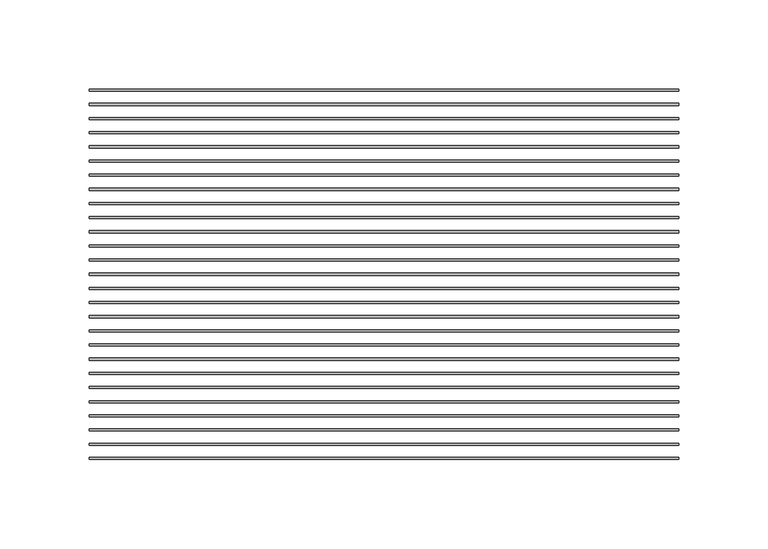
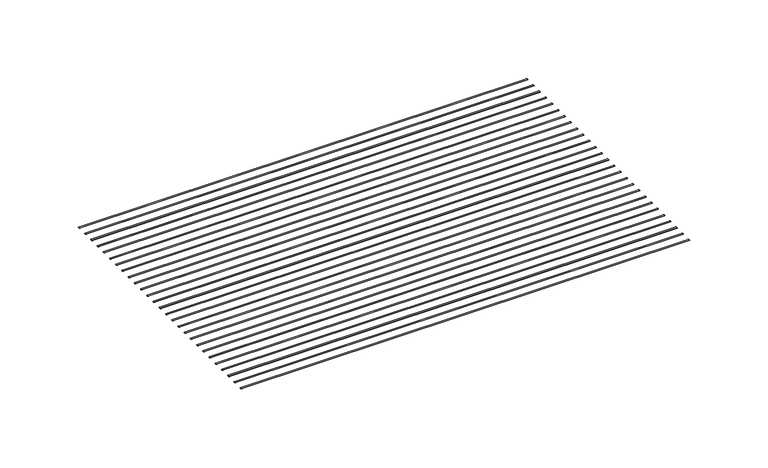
"""IFC4 building model written with IfcOpenShell, lengths in millimetres: proxy geometry, CRAi Generic Model Mesh Piece Face Based : CRAi Generic Model Mesh Piece Face Based."""

from ifc_helpers import new_model, si_unit, point, frame, origin, place, context, project, spatial, ellipse_curve, trimmed, source, transform, mapped, element, save
from ifc_brep_helpers import plane_surface, extruded_surface, advanced_brep


def generic_models_f109a2ff(model_context):
    return source(origin(), model_context, "Body", "AdvancedBrep", [
        advanced_brep(
        [(-165.1, 80.7640625, -2.9765625), (-165.1, 79.5734375, -2.9765625), (165.1, 80.7640625, -2.9765625), (165.1, 79.5734375, -2.9765625)],
        [
            (0, 1, ellipse_curve(frame((-165.1, 80.16875, -2.9765625), z_axis=(-1.0, 0.0, 0.0), x_axis=(0.0, -1.0, 0.0)), 0.5953125, 0.1984375)),
            (1, 0, ellipse_curve(frame((-165.1, 80.16875, -2.9765625), z_axis=(-1.0, 0.0, 0.0), x_axis=(0.0, -1.0, 0.0)), 0.5953125, 0.1984375)),
            (2, 3, ellipse_curve(frame((165.1, 80.16875, -2.9765625), z_axis=(1.0, 0.0, 0.0), x_axis=(0.0, -1.0, 0.0)), 0.5953125, 0.1984375)),
            (3, 2, ellipse_curve(frame((165.1, 80.16875, -2.9765625), z_axis=(1.0, 0.0, 0.0), x_axis=(0.0, -1.0, 0.0)), 0.5953125, 0.1984375)),
            (0, 2),
            (3, 1),
        ],
        [
            plane_surface(frame((-165.1, 80.16875, -2.9765625), z_axis=(-1.0, 0.0, 0.0), x_axis=(0.0, 0.0, 1.0))),
            plane_surface(frame((165.1, 80.16875, -2.9765625), z_axis=(1.0, 0.0, 0.0), x_axis=(0.0, 0.0, 1.0))),
            extruded_surface(trimmed(ellipse_curve(frame((165.1, 80.16875, -2.9765625), z_axis=(-1.0, 0.0, 0.0), x_axis=(0.0, -1.0, 0.0)), 0.5953125, 0.1984375), [point((165.1, 80.7640625, -2.9765625))], [point((165.1, 79.5734375, -2.9765625))], True, "CARTESIAN"), (-330.2, 0.0, 0.0), 330.2),
            extruded_surface(trimmed(ellipse_curve(frame((165.1, 80.16875, -2.9765625), z_axis=(-1.0, 0.0, 0.0), x_axis=(0.0, -1.0, 0.0)), 0.5953125, 0.1984375), [point((165.1, 79.5734375, -2.9765625))], [point((165.1, 80.7640625, -2.9765625))], True, "CARTESIAN"), (-330.2, 0.0, 0.0), 330.2),
        ],
        [
            (0, [[1, 2]]),
            (1, [[3, 4]]),
            (2, [[-1, 5, -4, 6]]),
            (3, [[-2, -6, -3, -5]]),
        ],
    ),
        advanced_brep(
        [(-165.1, 72.8265625, -2.9765625), (-165.1, 71.6359375, -2.9765625), (165.1, 72.8265625, -2.9765625), (165.1, 71.6359375, -2.9765625)],
        [
            (0, 1, ellipse_curve(frame((-165.1, 72.23125, -2.9765625), z_axis=(-1.0, 0.0, 0.0), x_axis=(0.0, -1.0, 0.0)), 0.5953125, 0.1984375)),
            (1, 0, ellipse_curve(frame((-165.1, 72.23125, -2.9765625), z_axis=(-1.0, 0.0, 0.0), x_axis=(0.0, -1.0, 0.0)), 0.5953125, 0.1984375)),
            (2, 3, ellipse_curve(frame((165.1, 72.23125, -2.9765625), z_axis=(1.0, 0.0, 0.0), x_axis=(0.0, -1.0, 0.0)), 0.5953125, 0.1984375)),
            (3, 2, ellipse_curve(frame((165.1, 72.23125, -2.9765625), z_axis=(1.0, 0.0, 0.0), x_axis=(0.0, -1.0, 0.0)), 0.5953125, 0.1984375)),
            (0, 2),
            (3, 1),
        ],
        [
            plane_surface(frame((-165.1, 72.23125, -2.9765625), z_axis=(-1.0, 0.0, 0.0), x_axis=(0.0, 0.0, 1.0))),
            plane_surface(frame((165.1, 72.23125, -2.9765625), z_axis=(1.0, 0.0, 0.0), x_axis=(0.0, 0.0, 1.0))),
            extruded_surface(trimmed(ellipse_curve(frame((165.1, 72.23125, -2.9765625), z_axis=(-1.0, 0.0, 0.0), x_axis=(0.0, -1.0, 0.0)), 0.5953125, 0.1984375), [point((165.1, 72.8265625, -2.9765625))], [point((165.1, 71.6359375, -2.9765625))], True, "CARTESIAN"), (-330.2, 0.0, 0.0), 330.2),
            extruded_surface(trimmed(ellipse_curve(frame((165.1, 72.23125, -2.9765625), z_axis=(-1.0, 0.0, 0.0), x_axis=(0.0, -1.0, 0.0)), 0.5953125, 0.1984375), [point((165.1, 71.6359375, -2.9765625))], [point((165.1, 72.8265625, -2.9765625))], True, "CARTESIAN"), (-330.2, 0.0, 0.0), 330.2),
        ],
        [
            (0, [[1, 2]]),
            (1, [[3, 4]]),
            (2, [[-1, 5, -4, 6]]),
            (3, [[-2, -6, -3, -5]]),
        ],
    ),
        advanced_brep(
        [(-165.1, 64.8890625, -2.9765625), (-165.1, 63.6984375, -2.9765625), (165.1, 64.8890625, -2.9765625), (165.1, 63.6984375, -2.9765625)],
        [
            (0, 1, ellipse_curve(frame((-165.1, 64.29375, -2.9765625), z_axis=(-1.0, 0.0, 0.0), x_axis=(0.0, -1.0, 0.0)), 0.5953125, 0.1984375)),
            (1, 0, ellipse_curve(frame((-165.1, 64.29375, -2.9765625), z_axis=(-1.0, 0.0, 0.0), x_axis=(0.0, -1.0, 0.0)), 0.5953125, 0.1984375)),
            (2, 3, ellipse_curve(frame((165.1, 64.29375, -2.9765625), z_axis=(1.0, 0.0, 0.0), x_axis=(0.0, -1.0, 0.0)), 0.5953125, 0.1984375)),
            (3, 2, ellipse_curve(frame((165.1, 64.29375, -2.9765625), z_axis=(1.0, 0.0, 0.0), x_axis=(0.0, -1.0, 0.0)), 0.5953125, 0.1984375)),
            (0, 2),
            (3, 1),
        ],
        [
            plane_surface(frame((-165.1, 64.29375, -2.9765625), z_axis=(-1.0, 0.0, 0.0), x_axis=(0.0, 0.0, 1.0))),
            plane_surface(frame((165.1, 64.29375, -2.9765625), z_axis=(1.0, 0.0, 0.0), x_axis=(0.0, 0.0, 1.0))),
            extruded_surface(trimmed(ellipse_curve(frame((165.1, 64.29375, -2.9765625), z_axis=(-1.0, 0.0, 0.0), x_axis=(0.0, -1.0, 0.0)), 0.5953125, 0.1984375), [point((165.1, 64.8890625, -2.9765625))], [point((165.1, 63.6984375, -2.9765625))], True, "CARTESIAN"), (-330.2, 0.0, 0.0), 330.2),
            extruded_surface(trimmed(ellipse_curve(frame((165.1, 64.29375, -2.9765625), z_axis=(-1.0, 0.0, 0.0), x_axis=(0.0, -1.0, 0.0)), 0.5953125, 0.1984375), [point((165.1, 63.6984375, -2.9765625))], [point((165.1, 64.8890625, -2.9765625))], True, "CARTESIAN"), (-330.2, 0.0, 0.0), 330.2),
        ],
        [
            (0, [[1, 2]]),
            (1, [[3, 4]]),
            (2, [[-1, 5, -4, 6]]),
            (3, [[-2, -6, -3, -5]]),
        ],
    ),
        advanced_brep(
        [(-165.1, 56.9515625, -2.9765625), (-165.1, 55.7609375, -2.9765625), (165.1, 56.9515625, -2.9765625), (165.1, 55.7609375, -2.9765625)],
        [
            (0, 1, ellipse_curve(frame((-165.1, 56.35625, -2.9765625), z_axis=(-1.0, 0.0, 0.0), x_axis=(0.0, -1.0, 0.0)), 0.5953125, 0.1984375)),
            (1, 0, ellipse_curve(frame((-165.1, 56.35625, -2.9765625), z_axis=(-1.0, 0.0, 0.0), x_axis=(0.0, -1.0, 0.0)), 0.5953125, 0.1984375)),
            (2, 3, ellipse_curve(frame((165.1, 56.35625, -2.9765625), z_axis=(1.0, 0.0, 0.0), x_axis=(0.0, -1.0, 0.0)), 0.5953125, 0.1984375)),
            (3, 2, ellipse_curve(frame((165.1, 56.35625, -2.9765625), z_axis=(1.0, 0.0, 0.0), x_axis=(0.0, -1.0, 0.0)), 0.5953125, 0.1984375)),
            (0, 2),
            (3, 1),
        ],
        [
            plane_surface(frame((-165.1, 56.35625, -2.9765625), z_axis=(-1.0, 0.0, 0.0), x_axis=(0.0, 0.0, 1.0))),
            plane_surface(frame((165.1, 56.35625, -2.9765625), z_axis=(1.0, 0.0, 0.0), x_axis=(0.0, 0.0, 1.0))),
            extruded_surface(trimmed(ellipse_curve(frame((165.1, 56.35625, -2.9765625), z_axis=(-1.0, 0.0, 0.0), x_axis=(0.0, -1.0, 0.0)), 0.5953125, 0.1984375), [point((165.1, 56.9515625, -2.9765625))], [point((165.1, 55.7609375, -2.9765625))], True, "CARTESIAN"), (-330.2, 0.0, 0.0), 330.2),
            extruded_surface(trimmed(ellipse_curve(frame((165.1, 56.35625, -2.9765625), z_axis=(-1.0, 0.0, 0.0), x_axis=(0.0, -1.0, 0.0)), 0.5953125, 0.1984375), [point((165.1, 55.7609375, -2.9765625))], [point((165.1, 56.9515625, -2.9765625))], True, "CARTESIAN"), (-330.2, 0.0, 0.0), 330.2),
        ],
        [
            (0, [[1, 2]]),
            (1, [[3, 4]]),
            (2, [[-1, 5, -4, 6]]),
            (3, [[-2, -6, -3, -5]]),
        ],
    ),
        advanced_brep(
        [(-165.1, 49.0140625, -2.9765625), (-165.1, 47.8234375, -2.9765625), (165.1, 49.0140625, -2.9765625), (165.1, 47.8234375, -2.9765625)],
        [
            (0, 1, ellipse_curve(frame((-165.1, 48.41875, -2.9765625), z_axis=(-1.0, 0.0, 0.0), x_axis=(0.0, -1.0, 0.0)), 0.5953125, 0.1984375)),
            (1, 0, ellipse_curve(frame((-165.1, 48.41875, -2.9765625), z_axis=(-1.0, 0.0, 0.0), x_axis=(0.0, -1.0, 0.0)), 0.5953125, 0.1984375)),
            (2, 3, ellipse_curve(frame((165.1, 48.41875, -2.9765625), z_axis=(1.0, 0.0, 0.0), x_axis=(0.0, -1.0, 0.0)), 0.5953125, 0.1984375)),
            (3, 2, ellipse_curve(frame((165.1, 48.41875, -2.9765625), z_axis=(1.0, 0.0, 0.0), x_axis=(0.0, -1.0, 0.0)), 0.5953125, 0.1984375)),
            (0, 2),
            (3, 1),
        ],
        [
            plane_surface(frame((-165.1, 48.41875, -2.9765625), z_axis=(-1.0, 0.0, 0.0), x_axis=(0.0, 0.0, 1.0))),
            plane_surface(frame((165.1, 48.41875, -2.9765625), z_axis=(1.0, 0.0, 0.0), x_axis=(0.0, 0.0, 1.0))),
            extruded_surface(trimmed(ellipse_curve(frame((165.1, 48.41875, -2.9765625), z_axis=(-1.0, 0.0, 0.0), x_axis=(0.0, -1.0, 0.0)), 0.5953125, 0.1984375), [point((165.1, 49.0140625, -2.9765625))], [point((165.1, 47.8234375, -2.9765625))], True, "CARTESIAN"), (-330.2, 0.0, 0.0), 330.2),
            extruded_surface(trimmed(ellipse_curve(frame((165.1, 48.41875, -2.9765625), z_axis=(-1.0, 0.0, 0.0), x_axis=(0.0, -1.0, 0.0)), 0.5953125, 0.1984375), [point((165.1, 47.8234375, -2.9765625))], [point((165.1, 49.0140625, -2.9765625))], True, "CARTESIAN"), (-330.2, 0.0, 0.0), 330.2),
        ],
        [
            (0, [[1, 2]]),
            (1, [[3, 4]]),
            (2, [[-1, 5, -4, 6]]),
            (3, [[-2, -6, -3, -5]]),
        ],
    ),
        advanced_brep(
        [(-165.1, 41.0765625, -2.9765625), (-165.1, 39.8859375, -2.9765625), (165.1, 41.0765625, -2.9765625), (165.1, 39.8859375, -2.9765625)],
        [
            (0, 1, ellipse_curve(frame((-165.1, 40.48125, -2.9765625), z_axis=(-1.0, 0.0, 0.0), x_axis=(0.0, -1.0, 0.0)), 0.5953125, 0.1984375)),
            (1, 0, ellipse_curve(frame((-165.1, 40.48125, -2.9765625), z_axis=(-1.0, 0.0, 0.0), x_axis=(0.0, -1.0, 0.0)), 0.5953125, 0.1984375)),
            (2, 3, ellipse_curve(frame((165.1, 40.48125, -2.9765625), z_axis=(1.0, 0.0, 0.0), x_axis=(0.0, -1.0, 0.0)), 0.5953125, 0.1984375)),
            (3, 2, ellipse_curve(frame((165.1, 40.48125, -2.9765625), z_axis=(1.0, 0.0, 0.0), x_axis=(0.0, -1.0, 0.0)), 0.5953125, 0.1984375)),
            (0, 2),
            (3, 1),
        ],
        [
            plane_surface(frame((-165.1, 40.48125, -2.9765625), z_axis=(-1.0, 0.0, 0.0), x_axis=(0.0, 0.0, 1.0))),
            plane_surface(frame((165.1, 40.48125, -2.9765625), z_axis=(1.0, 0.0, 0.0), x_axis=(0.0, 0.0, 1.0))),
            extruded_surface(trimmed(ellipse_curve(frame((165.1, 40.48125, -2.9765625), z_axis=(-1.0, 0.0, 0.0), x_axis=(0.0, -1.0, 0.0)), 0.5953125, 0.1984375), [point((165.1, 41.0765625, -2.9765625))], [point((165.1, 39.8859375, -2.9765625))], True, "CARTESIAN"), (-330.2, 0.0, 0.0), 330.2),
            extruded_surface(trimmed(ellipse_curve(frame((165.1, 40.48125, -2.9765625), z_axis=(-1.0, 0.0, 0.0), x_axis=(0.0, -1.0, 0.0)), 0.5953125, 0.1984375), [point((165.1, 39.8859375, -2.9765625))], [point((165.1, 41.0765625, -2.9765625))], True, "CARTESIAN"), (-330.2, 0.0, 0.0), 330.2),
        ],
        [
            (0, [[1, 2]]),
            (1, [[3, 4]]),
            (2, [[-1, 5, -4, 6]]),
            (3, [[-2, -6, -3, -5]]),
        ],
    ),
        advanced_brep(
        [(-165.1, 33.1390625, -2.9765625), (-165.1, 31.9484375, -2.9765625), (165.1, 33.1390625, -2.9765625), (165.1, 31.9484375, -2.9765625)],
        [
            (0, 1, ellipse_curve(frame((-165.1, 32.54375, -2.9765625), z_axis=(-1.0, 0.0, 0.0), x_axis=(0.0, -1.0, 0.0)), 0.5953125, 0.1984375)),
            (1, 0, ellipse_curve(frame((-165.1, 32.54375, -2.9765625), z_axis=(-1.0, 0.0, 0.0), x_axis=(0.0, -1.0, 0.0)), 0.5953125, 0.1984375)),
            (2, 3, ellipse_curve(frame((165.1, 32.54375, -2.9765625), z_axis=(1.0, 0.0, 0.0), x_axis=(0.0, -1.0, 0.0)), 0.5953125, 0.1984375)),
            (3, 2, ellipse_curve(frame((165.1, 32.54375, -2.9765625), z_axis=(1.0, 0.0, 0.0), x_axis=(0.0, -1.0, 0.0)), 0.5953125, 0.1984375)),
            (0, 2),
            (3, 1),
        ],
        [
            plane_surface(frame((-165.1, 32.54375, -2.9765625), z_axis=(-1.0, 0.0, 0.0), x_axis=(0.0, 0.0, 1.0))),
            plane_surface(frame((165.1, 32.54375, -2.9765625), z_axis=(1.0, 0.0, 0.0), x_axis=(0.0, 0.0, 1.0))),
            extruded_surface(trimmed(ellipse_curve(frame((165.1, 32.54375, -2.9765625), z_axis=(-1.0, 0.0, 0.0), x_axis=(0.0, -1.0, 0.0)), 0.5953125, 0.1984375), [point((165.1, 33.1390625, -2.9765625))], [point((165.1, 31.9484375, -2.9765625))], True, "CARTESIAN"), (-330.2, 0.0, 0.0), 330.2),
            extruded_surface(trimmed(ellipse_curve(frame((165.1, 32.54375, -2.9765625), z_axis=(-1.0, 0.0, 0.0), x_axis=(0.0, -1.0, 0.0)), 0.5953125, 0.1984375), [point((165.1, 31.9484375, -2.9765625))], [point((165.1, 33.1390625, -2.9765625))], True, "CARTESIAN"), (-330.2, 0.0, 0.0), 330.2),
        ],
        [
            (0, [[1, 2]]),
            (1, [[3, 4]]),
            (2, [[-1, 5, -4, 6]]),
            (3, [[-2, -6, -3, -5]]),
        ],
    ),
        advanced_brep(
        [(-165.1, 25.2015625, -2.9765625), (-165.1, 24.0109375, -2.9765625), (165.1, 25.2015625, -2.9765625), (165.1, 24.0109375, -2.9765625)],
        [
            (0, 1, ellipse_curve(frame((-165.1, 24.60625, -2.9765625), z_axis=(-1.0, 0.0, 0.0), x_axis=(0.0, -1.0, 0.0)), 0.5953125, 0.1984375)),
            (1, 0, ellipse_curve(frame((-165.1, 24.60625, -2.9765625), z_axis=(-1.0, 0.0, 0.0), x_axis=(0.0, -1.0, 0.0)), 0.5953125, 0.1984375)),
            (2, 3, ellipse_curve(frame((165.1, 24.60625, -2.9765625), z_axis=(1.0, 0.0, 0.0), x_axis=(0.0, -1.0, 0.0)), 0.5953125, 0.1984375)),
            (3, 2, ellipse_curve(frame((165.1, 24.60625, -2.9765625), z_axis=(1.0, 0.0, 0.0), x_axis=(0.0, -1.0, 0.0)), 0.5953125, 0.1984375)),
            (0, 2),
            (3, 1),
        ],
        [
            plane_surface(frame((-165.1, 24.60625, -2.9765625), z_axis=(-1.0, 0.0, 0.0), x_axis=(0.0, 0.0, 1.0))),
            plane_surface(frame((165.1, 24.60625, -2.9765625), z_axis=(1.0, 0.0, 0.0), x_axis=(0.0, 0.0, 1.0))),
            extruded_surface(trimmed(ellipse_curve(frame((165.1, 24.60625, -2.9765625), z_axis=(-1.0, 0.0, 0.0), x_axis=(0.0, -1.0, 0.0)), 0.5953125, 0.1984375), [point((165.1, 25.2015625, -2.9765625))], [point((165.1, 24.0109375, -2.9765625))], True, "CARTESIAN"), (-330.2, 0.0, 0.0), 330.2),
            extruded_surface(trimmed(ellipse_curve(frame((165.1, 24.60625, -2.9765625), z_axis=(-1.0, 0.0, 0.0), x_axis=(0.0, -1.0, 0.0)), 0.5953125, 0.1984375), [point((165.1, 24.0109375, -2.9765625))], [point((165.1, 25.2015625, -2.9765625))], True, "CARTESIAN"), (-330.2, 0.0, 0.0), 330.2),
        ],
        [
            (0, [[1, 2]]),
            (1, [[3, 4]]),
            (2, [[-1, 5, -4, 6]]),
            (3, [[-2, -6, -3, -5]]),
        ],
    ),
        advanced_brep(
        [(-165.1, 17.2640625, -2.9765625), (-165.1, 16.0734375, -2.9765625), (165.1, 17.2640625, -2.9765625), (165.1, 16.0734375, -2.9765625)],
        [
            (0, 1, ellipse_curve(frame((-165.1, 16.66875, -2.9765625), z_axis=(-1.0, 0.0, 0.0), x_axis=(0.0, -1.0, 0.0)), 0.5953125, 0.1984375)),
            (1, 0, ellipse_curve(frame((-165.1, 16.66875, -2.9765625), z_axis=(-1.0, 0.0, 0.0), x_axis=(0.0, -1.0, 0.0)), 0.5953125, 0.1984375)),
            (2, 3, ellipse_curve(frame((165.1, 16.66875, -2.9765625), z_axis=(1.0, 0.0, 0.0), x_axis=(0.0, -1.0, 0.0)), 0.5953125, 0.1984375)),
            (3, 2, ellipse_curve(frame((165.1, 16.66875, -2.9765625), z_axis=(1.0, 0.0, 0.0), x_axis=(0.0, -1.0, 0.0)), 0.5953125, 0.1984375)),
            (0, 2),
            (3, 1),
        ],
        [
            plane_surface(frame((-165.1, 16.66875, -2.9765625), z_axis=(-1.0, 0.0, 0.0), x_axis=(0.0, 0.0, 1.0))),
            plane_surface(frame((165.1, 16.66875, -2.9765625), z_axis=(1.0, 0.0, 0.0), x_axis=(0.0, 0.0, 1.0))),
            extruded_surface(trimmed(ellipse_curve(frame((165.1, 16.66875, -2.9765625), z_axis=(-1.0, 0.0, 0.0), x_axis=(0.0, -1.0, 0.0)), 0.5953125, 0.1984375), [point((165.1, 17.2640625, -2.9765625))], [point((165.1, 16.0734375, -2.9765625))], True, "CARTESIAN"), (-330.2, 0.0, 0.0), 330.2),
            extruded_surface(trimmed(ellipse_curve(frame((165.1, 16.66875, -2.9765625), z_axis=(-1.0, 0.0, 0.0), x_axis=(0.0, -1.0, 0.0)), 0.5953125, 0.1984375), [point((165.1, 16.0734375, -2.9765625))], [point((165.1, 17.2640625, -2.9765625))], True, "CARTESIAN"), (-330.2, 0.0, 0.0), 330.2),
        ],
        [
            (0, [[1, 2]]),
            (1, [[3, 4]]),
            (2, [[-1, 5, -4, 6]]),
            (3, [[-2, -6, -3, -5]]),
        ],
    ),
        advanced_brep(
        [(-165.1, 9.3265625, -2.9765625), (-165.1, 8.1359375, -2.9765625), (165.1, 9.3265625, -2.9765625), (165.1, 8.1359375, -2.9765625)],
        [
            (0, 1, ellipse_curve(frame((-165.1, 8.73125, -2.9765625), z_axis=(-1.0, 0.0, 0.0), x_axis=(0.0, -1.0, 0.0)), 0.5953125, 0.1984375)),
            (1, 0, ellipse_curve(frame((-165.1, 8.73125, -2.9765625), z_axis=(-1.0, 0.0, 0.0), x_axis=(0.0, -1.0, 0.0)), 0.5953125, 0.1984375)),
            (2, 3, ellipse_curve(frame((165.1, 8.73125, -2.9765625), z_axis=(1.0, 0.0, 0.0), x_axis=(0.0, -1.0, 0.0)), 0.5953125, 0.1984375)),
            (3, 2, ellipse_curve(frame((165.1, 8.73125, -2.9765625), z_axis=(1.0, 0.0, 0.0), x_axis=(0.0, -1.0, 0.0)), 0.5953125, 0.1984375)),
            (0, 2),
            (3, 1),
        ],
        [
            plane_surface(frame((-165.1, 8.73125, -2.9765625), z_axis=(-1.0, 0.0, 0.0), x_axis=(0.0, 0.0, 1.0))),
            plane_surface(frame((165.1, 8.73125, -2.9765625), z_axis=(1.0, 0.0, 0.0), x_axis=(0.0, 0.0, 1.0))),
            extruded_surface(trimmed(ellipse_curve(frame((165.1, 8.73125, -2.9765625), z_axis=(-1.0, 0.0, 0.0), x_axis=(0.0, -1.0, 0.0)), 0.5953125, 0.1984375), [point((165.1, 9.3265625, -2.9765625))], [point((165.1, 8.1359375, -2.9765625))], True, "CARTESIAN"), (-330.2, 0.0, 0.0), 330.2),
            extruded_surface(trimmed(ellipse_curve(frame((165.1, 8.73125, -2.9765625), z_axis=(-1.0, 0.0, 0.0), x_axis=(0.0, -1.0, 0.0)), 0.5953125, 0.1984375), [point((165.1, 8.1359375, -2.9765625))], [point((165.1, 9.3265625, -2.9765625))], True, "CARTESIAN"), (-330.2, 0.0, 0.0), 330.2),
        ],
        [
            (0, [[1, 2]]),
            (1, [[3, 4]]),
            (2, [[-1, 5, -4, 6]]),
            (3, [[-2, -6, -3, -5]]),
        ],
    ),
        advanced_brep(
        [(-165.1, 1.3890625, -2.9765625), (-165.1, 0.1984375, -2.9765625), (165.1, 1.3890625, -2.9765625), (165.1, 0.1984375, -2.9765625)],
        [
            (0, 1, ellipse_curve(frame((-165.1, 0.79375, -2.9765625), z_axis=(-1.0, 0.0, 0.0), x_axis=(0.0, -1.0, 0.0)), 0.5953125, 0.1984375)),
            (1, 0, ellipse_curve(frame((-165.1, 0.79375, -2.9765625), z_axis=(-1.0, 0.0, 0.0), x_axis=(0.0, -1.0, 0.0)), 0.5953125, 0.1984375)),
            (2, 3, ellipse_curve(frame((165.1, 0.79375, -2.9765625), z_axis=(1.0, 0.0, 0.0), x_axis=(0.0, -1.0, 0.0)), 0.5953125, 0.1984375)),
            (3, 2, ellipse_curve(frame((165.1, 0.79375, -2.9765625), z_axis=(1.0, 0.0, 0.0), x_axis=(0.0, -1.0, 0.0)), 0.5953125, 0.1984375)),
            (0, 2),
            (3, 1),
        ],
        [
            plane_surface(frame((-165.1, 0.79375, -2.9765625), z_axis=(-1.0, 0.0, 0.0), x_axis=(0.0, 0.0, 1.0))),
            plane_surface(frame((165.1, 0.79375, -2.9765625), z_axis=(1.0, 0.0, 0.0), x_axis=(0.0, 0.0, 1.0))),
            extruded_surface(trimmed(ellipse_curve(frame((165.1, 0.79375, -2.9765625), z_axis=(-1.0, 0.0, 0.0), x_axis=(0.0, -1.0, 0.0)), 0.5953125, 0.1984375), [point((165.1, 1.3890625, -2.9765625))], [point((165.1, 0.1984375, -2.9765625))], True, "CARTESIAN"), (-330.2, 0.0, 0.0), 330.2),
            extruded_surface(trimmed(ellipse_curve(frame((165.1, 0.79375, -2.9765625), z_axis=(-1.0, 0.0, 0.0), x_axis=(0.0, -1.0, 0.0)), 0.5953125, 0.1984375), [point((165.1, 0.1984375, -2.9765625))], [point((165.1, 1.3890625, -2.9765625))], True, "CARTESIAN"), (-330.2, 0.0, 0.0), 330.2),
        ],
        [
            (0, [[1, 2]]),
            (1, [[3, 4]]),
            (2, [[-1, 5, -4, 6]]),
            (3, [[-2, -6, -3, -5]]),
        ],
    ),
        advanced_brep(
        [(-165.1, -6.5484375, -2.9765625), (-165.1, -7.7390625, -2.9765625), (165.1, -6.5484375, -2.9765625), (165.1, -7.7390625, -2.9765625)],
        [
            (0, 1, ellipse_curve(frame((-165.1, -7.14375, -2.9765625), z_axis=(-1.0, 0.0, 0.0), x_axis=(0.0, -1.0, 0.0)), 0.5953125, 0.1984375)),
            (1, 0, ellipse_curve(frame((-165.1, -7.14375, -2.9765625), z_axis=(-1.0, 0.0, 0.0), x_axis=(0.0, -1.0, 0.0)), 0.5953125, 0.1984375)),
            (2, 3, ellipse_curve(frame((165.1, -7.14375, -2.9765625), z_axis=(1.0, 0.0, 0.0), x_axis=(0.0, -1.0, 0.0)), 0.5953125, 0.1984375)),
            (3, 2, ellipse_curve(frame((165.1, -7.14375, -2.9765625), z_axis=(1.0, 0.0, 0.0), x_axis=(0.0, -1.0, 0.0)), 0.5953125, 0.1984375)),
            (0, 2),
            (3, 1),
        ],
        [
            plane_surface(frame((-165.1, -7.14375, -2.9765625), z_axis=(-1.0, 0.0, 0.0), x_axis=(0.0, 0.0, 1.0))),
            plane_surface(frame((165.1, -7.14375, -2.9765625), z_axis=(1.0, 0.0, 0.0), x_axis=(0.0, 0.0, 1.0))),
            extruded_surface(trimmed(ellipse_curve(frame((165.1, -7.14375, -2.9765625), z_axis=(-1.0, 0.0, 0.0), x_axis=(0.0, -1.0, 0.0)), 0.5953125, 0.1984375), [point((165.1, -6.5484375, -2.9765625))], [point((165.1, -7.7390625, -2.9765625))], True, "CARTESIAN"), (-330.2, 0.0, 0.0), 330.2),
            extruded_surface(trimmed(ellipse_curve(frame((165.1, -7.14375, -2.9765625), z_axis=(-1.0, 0.0, 0.0), x_axis=(0.0, -1.0, 0.0)), 0.5953125, 0.1984375), [point((165.1, -7.7390625, -2.9765625))], [point((165.1, -6.5484375, -2.9765625))], True, "CARTESIAN"), (-330.2, 0.0, 0.0), 330.2),
        ],
        [
            (0, [[1, 2]]),
            (1, [[3, 4]]),
            (2, [[-1, 5, -4, 6]]),
            (3, [[-2, -6, -3, -5]]),
        ],
    ),
        advanced_brep(
        [(-165.1, -14.4859375, -2.9765625), (-165.1, -15.6765625, -2.9765625), (165.1, -14.4859375, -2.9765625), (165.1, -15.6765625, -2.9765625)],
        [
            (0, 1, ellipse_curve(frame((-165.1, -15.08125, -2.9765625), z_axis=(-1.0, 0.0, 0.0), x_axis=(0.0, -1.0, 0.0)), 0.5953125, 0.1984375)),
            (1, 0, ellipse_curve(frame((-165.1, -15.08125, -2.9765625), z_axis=(-1.0, 0.0, 0.0), x_axis=(0.0, -1.0, 0.0)), 0.5953125, 0.1984375)),
            (2, 3, ellipse_curve(frame((165.1, -15.08125, -2.9765625), z_axis=(1.0, 0.0, 0.0), x_axis=(0.0, -1.0, 0.0)), 0.5953125, 0.1984375)),
            (3, 2, ellipse_curve(frame((165.1, -15.08125, -2.9765625), z_axis=(1.0, 0.0, 0.0), x_axis=(0.0, -1.0, 0.0)), 0.5953125, 0.1984375)),
            (0, 2),
            (3, 1),
        ],
        [
            plane_surface(frame((-165.1, -15.08125, -2.9765625), z_axis=(-1.0, 0.0, 0.0), x_axis=(0.0, 0.0, 1.0))),
            plane_surface(frame((165.1, -15.08125, -2.9765625), z_axis=(1.0, 0.0, 0.0), x_axis=(0.0, 0.0, 1.0))),
            extruded_surface(trimmed(ellipse_curve(frame((165.1, -15.08125, -2.9765625), z_axis=(-1.0, 0.0, 0.0), x_axis=(0.0, -1.0, 0.0)), 0.5953125, 0.1984375), [point((165.1, -14.4859375, -2.9765625))], [point((165.1, -15.6765625, -2.9765625))], True, "CARTESIAN"), (-330.2, 0.0, 0.0), 330.2),
            extruded_surface(trimmed(ellipse_curve(frame((165.1, -15.08125, -2.9765625), z_axis=(-1.0, 0.0, 0.0), x_axis=(0.0, -1.0, 0.0)), 0.5953125, 0.1984375), [point((165.1, -15.6765625, -2.9765625))], [point((165.1, -14.4859375, -2.9765625))], True, "CARTESIAN"), (-330.2, 0.0, 0.0), 330.2),
        ],
        [
            (0, [[1, 2]]),
            (1, [[3, 4]]),
            (2, [[-1, 5, -4, 6]]),
            (3, [[-2, -6, -3, -5]]),
        ],
    ),
        advanced_brep(
        [(-165.1, -22.4234375, -2.9765625), (-165.1, -23.6140625, -2.9765625), (165.1, -22.4234375, -2.9765625), (165.1, -23.6140625, -2.9765625)],
        [
            (0, 1, ellipse_curve(frame((-165.1, -23.01875, -2.9765625), z_axis=(-1.0, 0.0, 0.0), x_axis=(0.0, -1.0, 0.0)), 0.5953125, 0.1984375)),
            (1, 0, ellipse_curve(frame((-165.1, -23.01875, -2.9765625), z_axis=(-1.0, 0.0, 0.0), x_axis=(0.0, -1.0, 0.0)), 0.5953125, 0.1984375)),
            (2, 3, ellipse_curve(frame((165.1, -23.01875, -2.9765625), z_axis=(1.0, 0.0, 0.0), x_axis=(0.0, -1.0, 0.0)), 0.5953125, 0.1984375)),
            (3, 2, ellipse_curve(frame((165.1, -23.01875, -2.9765625), z_axis=(1.0, 0.0, 0.0), x_axis=(0.0, -1.0, 0.0)), 0.5953125, 0.1984375)),
            (0, 2),
            (3, 1),
        ],
        [
            plane_surface(frame((-165.1, -23.01875, -2.9765625), z_axis=(-1.0, 0.0, 0.0), x_axis=(0.0, 0.0, 1.0))),
            plane_surface(frame((165.1, -23.01875, -2.9765625), z_axis=(1.0, 0.0, 0.0), x_axis=(0.0, 0.0, 1.0))),
            extruded_surface(trimmed(ellipse_curve(frame((165.1, -23.01875, -2.9765625), z_axis=(-1.0, 0.0, 0.0), x_axis=(0.0, -1.0, 0.0)), 0.5953125, 0.1984375), [point((165.1, -22.4234375, -2.9765625))], [point((165.1, -23.6140625, -2.9765625))], True, "CARTESIAN"), (-330.2, 0.0, 0.0), 330.2),
            extruded_surface(trimmed(ellipse_curve(frame((165.1, -23.01875, -2.9765625), z_axis=(-1.0, 0.0, 0.0), x_axis=(0.0, -1.0, 0.0)), 0.5953125, 0.1984375), [point((165.1, -23.6140625, -2.9765625))], [point((165.1, -22.4234375, -2.9765625))], True, "CARTESIAN"), (-330.2, 0.0, 0.0), 330.2),
        ],
        [
            (0, [[1, 2]]),
            (1, [[3, 4]]),
            (2, [[-1, 5, -4, 6]]),
            (3, [[-2, -6, -3, -5]]),
        ],
    ),
        advanced_brep(
        [(-165.1, -30.3609375, -2.9765625), (-165.1, -31.5515625, -2.9765625), (165.1, -30.3609375, -2.9765625), (165.1, -31.5515625, -2.9765625)],
        [
            (0, 1, ellipse_curve(frame((-165.1, -30.95625, -2.9765625), z_axis=(-1.0, 0.0, 0.0), x_axis=(0.0, -1.0, 0.0)), 0.5953125, 0.1984375)),
            (1, 0, ellipse_curve(frame((-165.1, -30.95625, -2.9765625), z_axis=(-1.0, 0.0, 0.0), x_axis=(0.0, -1.0, 0.0)), 0.5953125, 0.1984375)),
            (2, 3, ellipse_curve(frame((165.1, -30.95625, -2.9765625), z_axis=(1.0, 0.0, 0.0), x_axis=(0.0, -1.0, 0.0)), 0.5953125, 0.1984375)),
            (3, 2, ellipse_curve(frame((165.1, -30.95625, -2.9765625), z_axis=(1.0, 0.0, 0.0), x_axis=(0.0, -1.0, 0.0)), 0.5953125, 0.1984375)),
            (0, 2),
            (3, 1),
        ],
        [
            plane_surface(frame((-165.1, -30.95625, -2.9765625), z_axis=(-1.0, 0.0, 0.0), x_axis=(0.0, 0.0, 1.0))),
            plane_surface(frame((165.1, -30.95625, -2.9765625), z_axis=(1.0, 0.0, 0.0), x_axis=(0.0, 0.0, 1.0))),
            extruded_surface(trimmed(ellipse_curve(frame((165.1, -30.95625, -2.9765625), z_axis=(-1.0, 0.0, 0.0), x_axis=(0.0, -1.0, 0.0)), 0.5953125, 0.1984375), [point((165.1, -30.3609375, -2.9765625))], [point((165.1, -31.5515625, -2.9765625))], True, "CARTESIAN"), (-330.2, 0.0, 0.0), 330.2),
            extruded_surface(trimmed(ellipse_curve(frame((165.1, -30.95625, -2.9765625), z_axis=(-1.0, 0.0, 0.0), x_axis=(0.0, -1.0, 0.0)), 0.5953125, 0.1984375), [point((165.1, -31.5515625, -2.9765625))], [point((165.1, -30.3609375, -2.9765625))], True, "CARTESIAN"), (-330.2, 0.0, 0.0), 330.2),
        ],
        [
            (0, [[1, 2]]),
            (1, [[3, 4]]),
            (2, [[-1, 5, -4, 6]]),
            (3, [[-2, -6, -3, -5]]),
        ],
    ),
        advanced_brep(
        [(-165.1, -38.2984375, -2.9765625), (-165.1, -39.4890625, -2.9765625), (165.1, -38.2984375, -2.9765625), (165.1, -39.4890625, -2.9765625)],
        [
            (0, 1, ellipse_curve(frame((-165.1, -38.89375, -2.9765625), z_axis=(-1.0, 0.0, 0.0), x_axis=(0.0, -1.0, 0.0)), 0.5953125, 0.1984375)),
            (1, 0, ellipse_curve(frame((-165.1, -38.89375, -2.9765625), z_axis=(-1.0, 0.0, 0.0), x_axis=(0.0, -1.0, 0.0)), 0.5953125, 0.1984375)),
            (2, 3, ellipse_curve(frame((165.1, -38.89375, -2.9765625), z_axis=(1.0, 0.0, 0.0), x_axis=(0.0, -1.0, 0.0)), 0.5953125, 0.1984375)),
            (3, 2, ellipse_curve(frame((165.1, -38.89375, -2.9765625), z_axis=(1.0, 0.0, 0.0), x_axis=(0.0, -1.0, 0.0)), 0.5953125, 0.1984375)),
            (0, 2),
            (3, 1),
        ],
        [
            plane_surface(frame((-165.1, -38.89375, -2.9765625), z_axis=(-1.0, 0.0, 0.0), x_axis=(0.0, 0.0, 1.0))),
            plane_surface(frame((165.1, -38.89375, -2.9765625), z_axis=(1.0, 0.0, 0.0), x_axis=(0.0, 0.0, 1.0))),
            extruded_surface(trimmed(ellipse_curve(frame((165.1, -38.89375, -2.9765625), z_axis=(-1.0, 0.0, 0.0), x_axis=(0.0, -1.0, 0.0)), 0.5953125, 0.1984375), [point((165.1, -38.2984375, -2.9765625))], [point((165.1, -39.4890625, -2.9765625))], True, "CARTESIAN"), (-330.2, 0.0, 0.0), 330.2),
            extruded_surface(trimmed(ellipse_curve(frame((165.1, -38.89375, -2.9765625), z_axis=(-1.0, 0.0, 0.0), x_axis=(0.0, -1.0, 0.0)), 0.5953125, 0.1984375), [point((165.1, -39.4890625, -2.9765625))], [point((165.1, -38.2984375, -2.9765625))], True, "CARTESIAN"), (-330.2, 0.0, 0.0), 330.2),
        ],
        [
            (0, [[1, 2]]),
            (1, [[3, 4]]),
            (2, [[-1, 5, -4, 6]]),
            (3, [[-2, -6, -3, -5]]),
        ],
    ),
        advanced_brep(
        [(-165.1, -46.2359375, -2.9765625), (-165.1, -47.4265625, -2.9765625), (165.1, -46.2359375, -2.9765625), (165.1, -47.4265625, -2.9765625)],
        [
            (0, 1, ellipse_curve(frame((-165.1, -46.83125, -2.9765625), z_axis=(-1.0, 0.0, 0.0), x_axis=(0.0, -1.0, 0.0)), 0.5953125, 0.1984375)),
            (1, 0, ellipse_curve(frame((-165.1, -46.83125, -2.9765625), z_axis=(-1.0, 0.0, 0.0), x_axis=(0.0, -1.0, 0.0)), 0.5953125, 0.1984375)),
            (2, 3, ellipse_curve(frame((165.1, -46.83125, -2.9765625), z_axis=(1.0, 0.0, 0.0), x_axis=(0.0, -1.0, 0.0)), 0.5953125, 0.1984375)),
            (3, 2, ellipse_curve(frame((165.1, -46.83125, -2.9765625), z_axis=(1.0, 0.0, 0.0), x_axis=(0.0, -1.0, 0.0)), 0.5953125, 0.1984375)),
            (0, 2),
            (3, 1),
        ],
        [
            plane_surface(frame((-165.1, -46.83125, -2.9765625), z_axis=(-1.0, 0.0, 0.0), x_axis=(0.0, 0.0, 1.0))),
            plane_surface(frame((165.1, -46.83125, -2.9765625), z_axis=(1.0, 0.0, 0.0), x_axis=(0.0, 0.0, 1.0))),
            extruded_surface(trimmed(ellipse_curve(frame((165.1, -46.83125, -2.9765625), z_axis=(-1.0, 0.0, 0.0), x_axis=(0.0, -1.0, 0.0)), 0.5953125, 0.1984375), [point((165.1, -46.2359375, -2.9765625))], [point((165.1, -47.4265625, -2.9765625))], True, "CARTESIAN"), (-330.2, 0.0, 0.0), 330.2),
            extruded_surface(trimmed(ellipse_curve(frame((165.1, -46.83125, -2.9765625), z_axis=(-1.0, 0.0, 0.0), x_axis=(0.0, -1.0, 0.0)), 0.5953125, 0.1984375), [point((165.1, -47.4265625, -2.9765625))], [point((165.1, -46.2359375, -2.9765625))], True, "CARTESIAN"), (-330.2, 0.0, 0.0), 330.2),
        ],
        [
            (0, [[1, 2]]),
            (1, [[3, 4]]),
            (2, [[-1, 5, -4, 6]]),
            (3, [[-2, -6, -3, -5]]),
        ],
    ),
        advanced_brep(
        [(-165.1, -54.1734375, -2.9765625), (-165.1, -55.3640625, -2.9765625), (165.1, -54.1734375, -2.9765625), (165.1, -55.3640625, -2.9765625)],
        [
            (0, 1, ellipse_curve(frame((-165.1, -54.76875, -2.9765625), z_axis=(-1.0, 0.0, 0.0), x_axis=(0.0, -1.0, 0.0)), 0.5953125, 0.1984375)),
            (1, 0, ellipse_curve(frame((-165.1, -54.76875, -2.9765625), z_axis=(-1.0, 0.0, 0.0), x_axis=(0.0, -1.0, 0.0)), 0.5953125, 0.1984375)),
            (2, 3, ellipse_curve(frame((165.1, -54.76875, -2.9765625), z_axis=(1.0, 0.0, 0.0), x_axis=(0.0, -1.0, 0.0)), 0.5953125, 0.1984375)),
            (3, 2, ellipse_curve(frame((165.1, -54.76875, -2.9765625), z_axis=(1.0, 0.0, 0.0), x_axis=(0.0, -1.0, 0.0)), 0.5953125, 0.1984375)),
            (0, 2),
            (3, 1),
        ],
        [
            plane_surface(frame((-165.1, -54.76875, -2.9765625), z_axis=(-1.0, 0.0, 0.0), x_axis=(0.0, 0.0, 1.0))),
            plane_surface(frame((165.1, -54.76875, -2.9765625), z_axis=(1.0, 0.0, 0.0), x_axis=(0.0, 0.0, 1.0))),
            extruded_surface(trimmed(ellipse_curve(frame((165.1, -54.76875, -2.9765625), z_axis=(-1.0, 0.0, 0.0), x_axis=(0.0, -1.0, 0.0)), 0.5953125, 0.1984375), [point((165.1, -54.1734375, -2.9765625))], [point((165.1, -55.3640625, -2.9765625))], True, "CARTESIAN"), (-330.2, 0.0, 0.0), 330.2),
            extruded_surface(trimmed(ellipse_curve(frame((165.1, -54.76875, -2.9765625), z_axis=(-1.0, 0.0, 0.0), x_axis=(0.0, -1.0, 0.0)), 0.5953125, 0.1984375), [point((165.1, -55.3640625, -2.9765625))], [point((165.1, -54.1734375, -2.9765625))], True, "CARTESIAN"), (-330.2, 0.0, 0.0), 330.2),
        ],
        [
            (0, [[1, 2]]),
            (1, [[3, 4]]),
            (2, [[-1, 5, -4, 6]]),
            (3, [[-2, -6, -3, -5]]),
        ],
    ),
        advanced_brep(
        [(-165.1, -62.1109375, -2.9765625), (-165.1, -63.3015625, -2.9765625), (165.1, -62.1109375, -2.9765625), (165.1, -63.3015625, -2.9765625)],
        [
            (0, 1, ellipse_curve(frame((-165.1, -62.70625, -2.9765625), z_axis=(-1.0, 0.0, 0.0), x_axis=(0.0, -1.0, 0.0)), 0.5953125, 0.1984375)),
            (1, 0, ellipse_curve(frame((-165.1, -62.70625, -2.9765625), z_axis=(-1.0, 0.0, 0.0), x_axis=(0.0, -1.0, 0.0)), 0.5953125, 0.1984375)),
            (2, 3, ellipse_curve(frame((165.1, -62.70625, -2.9765625), z_axis=(1.0, 0.0, 0.0), x_axis=(0.0, -1.0, 0.0)), 0.5953125, 0.1984375)),
            (3, 2, ellipse_curve(frame((165.1, -62.70625, -2.9765625), z_axis=(1.0, 0.0, 0.0), x_axis=(0.0, -1.0, 0.0)), 0.5953125, 0.1984375)),
            (0, 2),
            (3, 1),
        ],
        [
            plane_surface(frame((-165.1, -62.70625, -2.9765625), z_axis=(-1.0, 0.0, 0.0), x_axis=(0.0, 0.0, 1.0))),
            plane_surface(frame((165.1, -62.70625, -2.9765625), z_axis=(1.0, 0.0, 0.0), x_axis=(0.0, 0.0, 1.0))),
            extruded_surface(trimmed(ellipse_curve(frame((165.1, -62.70625, -2.9765625), z_axis=(-1.0, 0.0, 0.0), x_axis=(0.0, -1.0, 0.0)), 0.5953125, 0.1984375), [point((165.1, -62.1109375, -2.9765625))], [point((165.1, -63.3015625, -2.9765625))], True, "CARTESIAN"), (-330.2, 0.0, 0.0), 330.2),
            extruded_surface(trimmed(ellipse_curve(frame((165.1, -62.70625, -2.9765625), z_axis=(-1.0, 0.0, 0.0), x_axis=(0.0, -1.0, 0.0)), 0.5953125, 0.1984375), [point((165.1, -63.3015625, -2.9765625))], [point((165.1, -62.1109375, -2.9765625))], True, "CARTESIAN"), (-330.2, 0.0, 0.0), 330.2),
        ],
        [
            (0, [[1, 2]]),
            (1, [[3, 4]]),
            (2, [[-1, 5, -4, 6]]),
            (3, [[-2, -6, -3, -5]]),
        ],
    ),
        advanced_brep(
        [(-165.1, -70.0484375, -2.9765625), (-165.1, -71.2390625, -2.9765625), (165.1, -70.0484375, -2.9765625), (165.1, -71.2390625, -2.9765625)],
        [
            (0, 1, ellipse_curve(frame((-165.1, -70.64375, -2.9765625), z_axis=(-1.0, 0.0, 0.0), x_axis=(0.0, -1.0, 0.0)), 0.5953125, 0.1984375)),
            (1, 0, ellipse_curve(frame((-165.1, -70.64375, -2.9765625), z_axis=(-1.0, 0.0, 0.0), x_axis=(0.0, -1.0, 0.0)), 0.5953125, 0.1984375)),
            (2, 3, ellipse_curve(frame((165.1, -70.64375, -2.9765625), z_axis=(1.0, 0.0, 0.0), x_axis=(0.0, -1.0, 0.0)), 0.5953125, 0.1984375)),
            (3, 2, ellipse_curve(frame((165.1, -70.64375, -2.9765625), z_axis=(1.0, 0.0, 0.0), x_axis=(0.0, -1.0, 0.0)), 0.5953125, 0.1984375)),
            (0, 2),
            (3, 1),
        ],
        [
            plane_surface(frame((-165.1, -70.64375, -2.9765625), z_axis=(-1.0, 0.0, 0.0), x_axis=(0.0, 0.0, 1.0))),
            plane_surface(frame((165.1, -70.64375, -2.9765625), z_axis=(1.0, 0.0, 0.0), x_axis=(0.0, 0.0, 1.0))),
            extruded_surface(trimmed(ellipse_curve(frame((165.1, -70.64375, -2.9765625), z_axis=(-1.0, 0.0, 0.0), x_axis=(0.0, -1.0, 0.0)), 0.5953125, 0.1984375), [point((165.1, -70.0484375, -2.9765625))], [point((165.1, -71.2390625, -2.9765625))], True, "CARTESIAN"), (-330.2, 0.0, 0.0), 330.2),
            extruded_surface(trimmed(ellipse_curve(frame((165.1, -70.64375, -2.9765625), z_axis=(-1.0, 0.0, 0.0), x_axis=(0.0, -1.0, 0.0)), 0.5953125, 0.1984375), [point((165.1, -71.2390625, -2.9765625))], [point((165.1, -70.0484375, -2.9765625))], True, "CARTESIAN"), (-330.2, 0.0, 0.0), 330.2),
        ],
        [
            (0, [[1, 2]]),
            (1, [[3, 4]]),
            (2, [[-1, 5, -4, 6]]),
            (3, [[-2, -6, -3, -5]]),
        ],
    ),
        advanced_brep(
        [(-165.1, -77.9859375, -2.9765625), (-165.1, -79.1765625, -2.9765625), (165.1, -77.9859375, -2.9765625), (165.1, -79.1765625, -2.9765625)],
        [
            (0, 1, ellipse_curve(frame((-165.1, -78.58125, -2.9765625), z_axis=(-1.0, 0.0, 0.0), x_axis=(0.0, -1.0, 0.0)), 0.5953125, 0.1984375)),
            (1, 0, ellipse_curve(frame((-165.1, -78.58125, -2.9765625), z_axis=(-1.0, 0.0, 0.0), x_axis=(0.0, -1.0, 0.0)), 0.5953125, 0.1984375)),
            (2, 3, ellipse_curve(frame((165.1, -78.58125, -2.9765625), z_axis=(1.0, 0.0, 0.0), x_axis=(0.0, -1.0, 0.0)), 0.5953125, 0.1984375)),
            (3, 2, ellipse_curve(frame((165.1, -78.58125, -2.9765625), z_axis=(1.0, 0.0, 0.0), x_axis=(0.0, -1.0, 0.0)), 0.5953125, 0.1984375)),
            (0, 2),
            (3, 1),
        ],
        [
            plane_surface(frame((-165.1, -78.58125, -2.9765625), z_axis=(-1.0, 0.0, 0.0), x_axis=(0.0, 0.0, 1.0))),
            plane_surface(frame((165.1, -78.58125, -2.9765625), z_axis=(1.0, 0.0, 0.0), x_axis=(0.0, 0.0, 1.0))),
            extruded_surface(trimmed(ellipse_curve(frame((165.1, -78.58125, -2.9765625), z_axis=(-1.0, 0.0, 0.0), x_axis=(0.0, -1.0, 0.0)), 0.5953125, 0.1984375), [point((165.1, -77.9859375, -2.9765625))], [point((165.1, -79.1765625, -2.9765625))], True, "CARTESIAN"), (-330.2, 0.0, 0.0), 330.2),
            extruded_surface(trimmed(ellipse_curve(frame((165.1, -78.58125, -2.9765625), z_axis=(-1.0, 0.0, 0.0), x_axis=(0.0, -1.0, 0.0)), 0.5953125, 0.1984375), [point((165.1, -79.1765625, -2.9765625))], [point((165.1, -77.9859375, -2.9765625))], True, "CARTESIAN"), (-330.2, 0.0, 0.0), 330.2),
        ],
        [
            (0, [[1, 2]]),
            (1, [[3, 4]]),
            (2, [[-1, 5, -4, 6]]),
            (3, [[-2, -6, -3, -5]]),
        ],
    ),
        advanced_brep(
        [(-165.1, -85.9234375, -2.9765625), (-165.1, -87.1140625, -2.9765625), (165.1, -85.9234375, -2.9765625), (165.1, -87.1140625, -2.9765625)],
        [
            (0, 1, ellipse_curve(frame((-165.1, -86.51875, -2.9765625), z_axis=(-1.0, 0.0, 0.0), x_axis=(0.0, -1.0, 0.0)), 0.5953125, 0.1984375)),
            (1, 0, ellipse_curve(frame((-165.1, -86.51875, -2.9765625), z_axis=(-1.0, 0.0, 0.0), x_axis=(0.0, -1.0, 0.0)), 0.5953125, 0.1984375)),
            (2, 3, ellipse_curve(frame((165.1, -86.51875, -2.9765625), z_axis=(1.0, 0.0, 0.0), x_axis=(0.0, -1.0, 0.0)), 0.5953125, 0.1984375)),
            (3, 2, ellipse_curve(frame((165.1, -86.51875, -2.9765625), z_axis=(1.0, 0.0, 0.0), x_axis=(0.0, -1.0, 0.0)), 0.5953125, 0.1984375)),
            (0, 2),
            (3, 1),
        ],
        [
            plane_surface(frame((-165.1, -86.51875, -2.9765625), z_axis=(-1.0, 0.0, 0.0), x_axis=(0.0, 0.0, 1.0))),
            plane_surface(frame((165.1, -86.51875, -2.9765625), z_axis=(1.0, 0.0, 0.0), x_axis=(0.0, 0.0, 1.0))),
            extruded_surface(trimmed(ellipse_curve(frame((165.1, -86.51875, -2.9765625), z_axis=(-1.0, 0.0, 0.0), x_axis=(0.0, -1.0, 0.0)), 0.5953125, 0.1984375), [point((165.1, -85.9234375, -2.9765625))], [point((165.1, -87.1140625, -2.9765625))], True, "CARTESIAN"), (-330.2, 0.0, 0.0), 330.2),
            extruded_surface(trimmed(ellipse_curve(frame((165.1, -86.51875, -2.9765625), z_axis=(-1.0, 0.0, 0.0), x_axis=(0.0, -1.0, 0.0)), 0.5953125, 0.1984375), [point((165.1, -87.1140625, -2.9765625))], [point((165.1, -85.9234375, -2.9765625))], True, "CARTESIAN"), (-330.2, 0.0, 0.0), 330.2),
        ],
        [
            (0, [[1, 2]]),
            (1, [[3, 4]]),
            (2, [[-1, 5, -4, 6]]),
            (3, [[-2, -6, -3, -5]]),
        ],
    ),
        advanced_brep(
        [(-165.1, -93.8609375, -2.9765625), (-165.1, -95.0515625, -2.9765625), (165.1, -93.8609375, -2.9765625), (165.1, -95.0515625, -2.9765625)],
        [
            (0, 1, ellipse_curve(frame((-165.1, -94.45625, -2.9765625), z_axis=(-1.0, 0.0, 0.0), x_axis=(0.0, -1.0, 0.0)), 0.5953125, 0.1984375)),
            (1, 0, ellipse_curve(frame((-165.1, -94.45625, -2.9765625), z_axis=(-1.0, 0.0, 0.0), x_axis=(0.0, -1.0, 0.0)), 0.5953125, 0.1984375)),
            (2, 3, ellipse_curve(frame((165.1, -94.45625, -2.9765625), z_axis=(1.0, 0.0, 0.0), x_axis=(0.0, -1.0, 0.0)), 0.5953125, 0.1984375)),
            (3, 2, ellipse_curve(frame((165.1, -94.45625, -2.9765625), z_axis=(1.0, 0.0, 0.0), x_axis=(0.0, -1.0, 0.0)), 0.5953125, 0.1984375)),
            (0, 2),
            (3, 1),
        ],
        [
            plane_surface(frame((-165.1, -94.45625, -2.9765625), z_axis=(-1.0, 0.0, 0.0), x_axis=(0.0, 0.0, 1.0))),
            plane_surface(frame((165.1, -94.45625, -2.9765625), z_axis=(1.0, 0.0, 0.0), x_axis=(0.0, 0.0, 1.0))),
            extruded_surface(trimmed(ellipse_curve(frame((165.1, -94.45625, -2.9765625), z_axis=(-1.0, 0.0, 0.0), x_axis=(0.0, -1.0, 0.0)), 0.5953125, 0.1984375), [point((165.1, -93.8609375, -2.9765625))], [point((165.1, -95.0515625, -2.9765625))], True, "CARTESIAN"), (-330.2, 0.0, 0.0), 330.2),
            extruded_surface(trimmed(ellipse_curve(frame((165.1, -94.45625, -2.9765625), z_axis=(-1.0, 0.0, 0.0), x_axis=(0.0, -1.0, 0.0)), 0.5953125, 0.1984375), [point((165.1, -95.0515625, -2.9765625))], [point((165.1, -93.8609375, -2.9765625))], True, "CARTESIAN"), (-330.2, 0.0, 0.0), 330.2),
        ],
        [
            (0, [[1, 2]]),
            (1, [[3, 4]]),
            (2, [[-1, 5, -4, 6]]),
            (3, [[-2, -6, -3, -5]]),
        ],
    ),
        advanced_brep(
        [(-165.1, -101.7984375, -2.9765625), (-165.1, -102.9890625, -2.9765625), (165.1, -101.7984375, -2.9765625), (165.1, -102.9890625, -2.9765625)],
        [
            (0, 1, ellipse_curve(frame((-165.1, -102.39375, -2.9765625), z_axis=(-1.0, 0.0, 0.0), x_axis=(0.0, -1.0, 0.0)), 0.5953125, 0.1984375)),
            (1, 0, ellipse_curve(frame((-165.1, -102.39375, -2.9765625), z_axis=(-1.0, 0.0, 0.0), x_axis=(0.0, -1.0, 0.0)), 0.5953125, 0.1984375)),
            (2, 3, ellipse_curve(frame((165.1, -102.39375, -2.9765625), z_axis=(1.0, 0.0, 0.0), x_axis=(0.0, -1.0, 0.0)), 0.5953125, 0.1984375)),
            (3, 2, ellipse_curve(frame((165.1, -102.39375, -2.9765625), z_axis=(1.0, 0.0, 0.0), x_axis=(0.0, -1.0, 0.0)), 0.5953125, 0.1984375)),
            (0, 2),
            (3, 1),
        ],
        [
            plane_surface(frame((-165.1, -102.39375, -2.9765625), z_axis=(-1.0, 0.0, 0.0), x_axis=(0.0, 0.0, 1.0))),
            plane_surface(frame((165.1, -102.39375, -2.9765625), z_axis=(1.0, 0.0, 0.0), x_axis=(0.0, 0.0, 1.0))),
            extruded_surface(trimmed(ellipse_curve(frame((165.1, -102.39375, -2.9765625), z_axis=(-1.0, 0.0, 0.0), x_axis=(0.0, -1.0, 0.0)), 0.5953125, 0.1984375), [point((165.1, -101.7984375, -2.9765625))], [point((165.1, -102.9890625, -2.9765625))], True, "CARTESIAN"), (-330.2, 0.0, 0.0), 330.2),
            extruded_surface(trimmed(ellipse_curve(frame((165.1, -102.39375, -2.9765625), z_axis=(-1.0, 0.0, 0.0), x_axis=(0.0, -1.0, 0.0)), 0.5953125, 0.1984375), [point((165.1, -102.9890625, -2.9765625))], [point((165.1, -101.7984375, -2.9765625))], True, "CARTESIAN"), (-330.2, 0.0, 0.0), 330.2),
        ],
        [
            (0, [[1, 2]]),
            (1, [[3, 4]]),
            (2, [[-1, 5, -4, 6]]),
            (3, [[-2, -6, -3, -5]]),
        ],
    ),
        advanced_brep(
        [(-165.1, -109.7359375, -2.9765625), (-165.1, -110.9265625, -2.9765625), (165.1, -109.7359375, -2.9765625), (165.1, -110.9265625, -2.9765625)],
        [
            (0, 1, ellipse_curve(frame((-165.1, -110.33125, -2.9765625), z_axis=(-1.0, 0.0, 0.0), x_axis=(0.0, -1.0, 0.0)), 0.5953125, 0.1984375)),
            (1, 0, ellipse_curve(frame((-165.1, -110.33125, -2.9765625), z_axis=(-1.0, 0.0, 0.0), x_axis=(0.0, -1.0, 0.0)), 0.5953125, 0.1984375)),
            (2, 3, ellipse_curve(frame((165.1, -110.33125, -2.9765625), z_axis=(1.0, 0.0, 0.0), x_axis=(0.0, -1.0, 0.0)), 0.5953125, 0.1984375)),
            (3, 2, ellipse_curve(frame((165.1, -110.33125, -2.9765625), z_axis=(1.0, 0.0, 0.0), x_axis=(0.0, -1.0, 0.0)), 0.5953125, 0.1984375)),
            (0, 2),
            (3, 1),
        ],
        [
            plane_surface(frame((-165.1, -110.33125, -2.9765625), z_axis=(-1.0, 0.0, 0.0), x_axis=(0.0, 0.0, 1.0))),
            plane_surface(frame((165.1, -110.33125, -2.9765625), z_axis=(1.0, 0.0, 0.0), x_axis=(0.0, 0.0, 1.0))),
            extruded_surface(trimmed(ellipse_curve(frame((165.1, -110.33125, -2.9765625), z_axis=(-1.0, 0.0, 0.0), x_axis=(0.0, -1.0, 0.0)), 0.5953125, 0.1984375), [point((165.1, -109.7359375, -2.9765625))], [point((165.1, -110.9265625, -2.9765625))], True, "CARTESIAN"), (-330.2, 0.0, 0.0), 330.2),
            extruded_surface(trimmed(ellipse_curve(frame((165.1, -110.33125, -2.9765625), z_axis=(-1.0, 0.0, 0.0), x_axis=(0.0, -1.0, 0.0)), 0.5953125, 0.1984375), [point((165.1, -110.9265625, -2.9765625))], [point((165.1, -109.7359375, -2.9765625))], True, "CARTESIAN"), (-330.2, 0.0, 0.0), 330.2),
        ],
        [
            (0, [[1, 2]]),
            (1, [[3, 4]]),
            (2, [[-1, 5, -4, 6]]),
            (3, [[-2, -6, -3, -5]]),
        ],
    ),
        advanced_brep(
        [(-165.1, -117.6734375, -2.9765625), (-165.1, -118.8640625, -2.9765625), (165.1, -117.6734375, -2.9765625), (165.1, -118.8640625, -2.9765625)],
        [
            (0, 1, ellipse_curve(frame((-165.1, -118.26875, -2.9765625), z_axis=(-1.0, 0.0, 0.0), x_axis=(0.0, -1.0, 0.0)), 0.5953125, 0.1984375)),
            (1, 0, ellipse_curve(frame((-165.1, -118.26875, -2.9765625), z_axis=(-1.0, 0.0, 0.0), x_axis=(0.0, -1.0, 0.0)), 0.5953125, 0.1984375)),
            (2, 3, ellipse_curve(frame((165.1, -118.26875, -2.9765625), z_axis=(1.0, 0.0, 0.0), x_axis=(0.0, -1.0, 0.0)), 0.5953125, 0.1984375)),
            (3, 2, ellipse_curve(frame((165.1, -118.26875, -2.9765625), z_axis=(1.0, 0.0, 0.0), x_axis=(0.0, -1.0, 0.0)), 0.5953125, 0.1984375)),
            (0, 2),
            (3, 1),
        ],
        [
            plane_surface(frame((-165.1, -118.26875, -2.9765625), z_axis=(-1.0, 0.0, 0.0), x_axis=(0.0, 0.0, 1.0))),
            plane_surface(frame((165.1, -118.26875, -2.9765625), z_axis=(1.0, 0.0, 0.0), x_axis=(0.0, 0.0, 1.0))),
            extruded_surface(trimmed(ellipse_curve(frame((165.1, -118.26875, -2.9765625), z_axis=(-1.0, 0.0, 0.0), x_axis=(0.0, -1.0, 0.0)), 0.5953125, 0.1984375), [point((165.1, -117.6734375, -2.9765625))], [point((165.1, -118.8640625, -2.9765625))], True, "CARTESIAN"), (-330.2, 0.0, 0.0), 330.2),
            extruded_surface(trimmed(ellipse_curve(frame((165.1, -118.26875, -2.9765625), z_axis=(-1.0, 0.0, 0.0), x_axis=(0.0, -1.0, 0.0)), 0.5953125, 0.1984375), [point((165.1, -118.8640625, -2.9765625))], [point((165.1, -117.6734375, -2.9765625))], True, "CARTESIAN"), (-330.2, 0.0, 0.0), 330.2),
        ],
        [
            (0, [[1, 2]]),
            (1, [[3, 4]]),
            (2, [[-1, 5, -4, 6]]),
            (3, [[-2, -6, -3, -5]]),
        ],
    ),
        advanced_brep(
        [(-165.1, -125.6109375, -2.9765625), (-165.1, -126.8015625, -2.9765625), (165.1, -125.6109375, -2.9765625), (165.1, -126.8015625, -2.9765625)],
        [
            (0, 1, ellipse_curve(frame((-165.1, -126.20625, -2.9765625), z_axis=(-1.0, 0.0, 0.0), x_axis=(0.0, -1.0, 0.0)), 0.5953125, 0.1984375)),
            (1, 0, ellipse_curve(frame((-165.1, -126.20625, -2.9765625), z_axis=(-1.0, 0.0, 0.0), x_axis=(0.0, -1.0, 0.0)), 0.5953125, 0.1984375)),
            (2, 3, ellipse_curve(frame((165.1, -126.20625, -2.9765625), z_axis=(1.0, 0.0, 0.0), x_axis=(0.0, -1.0, 0.0)), 0.5953125, 0.1984375)),
            (3, 2, ellipse_curve(frame((165.1, -126.20625, -2.9765625), z_axis=(1.0, 0.0, 0.0), x_axis=(0.0, -1.0, 0.0)), 0.5953125, 0.1984375)),
            (0, 2),
            (3, 1),
        ],
        [
            plane_surface(frame((-165.1, -126.20625, -2.9765625), z_axis=(-1.0, 0.0, 0.0), x_axis=(0.0, 0.0, 1.0))),
            plane_surface(frame((165.1, -126.20625, -2.9765625), z_axis=(1.0, 0.0, 0.0), x_axis=(0.0, 0.0, 1.0))),
            extruded_surface(trimmed(ellipse_curve(frame((165.1, -126.20625, -2.9765625), z_axis=(-1.0, 0.0, 0.0), x_axis=(0.0, -1.0, 0.0)), 0.5953125, 0.1984375), [point((165.1, -125.6109375, -2.9765625))], [point((165.1, -126.8015625, -2.9765625))], True, "CARTESIAN"), (-330.2, 0.0, 0.0), 330.2),
            extruded_surface(trimmed(ellipse_curve(frame((165.1, -126.20625, -2.9765625), z_axis=(-1.0, 0.0, 0.0), x_axis=(0.0, -1.0, 0.0)), 0.5953125, 0.1984375), [point((165.1, -126.8015625, -2.9765625))], [point((165.1, -125.6109375, -2.9765625))], True, "CARTESIAN"), (-330.2, 0.0, 0.0), 330.2),
        ],
        [
            (0, [[1, 2]]),
            (1, [[3, 4]]),
            (2, [[-1, 5, -4, 6]]),
            (3, [[-2, -6, -3, -5]]),
        ],
    ),
    ])


if __name__ == "__main__":
    model = new_model("IFC4")
    model_context = context("Model", 3, world=origin())
    ifc_project = project(units=[si_unit("LENGTHUNIT", "METRE", prefix="MILLI")], contexts=[model_context])
    site = spatial("IfcSite", under=ifc_project)
    building = spatial("IfcBuilding", under=site)
    placement = place(None, origin())
    generic_models_shape = generic_models_f109a2ff(model_context)
    element("IfcBuildingElementProxy", 1, Name="CRAi Generic Model Mesh Piece Face Based : CRAi Generic Model Mesh Piece Face Based", ObjectType="CRAi Generic Model Mesh Piece Face Based : CRAi Generic Model Mesh Piece Face Based", at=placement, inside=building, context=model_context, shape_type="MappedRepresentation", body=[
        mapped(generic_models_shape, transform((0.0, 0.0, 0.0), x_axis=(1.0, 0.0, 0.0), y_axis=(0.0, 1.0, 0.0), z_axis=(0.0, 0.0, 1.0))),
    ])
    save(model, "model.ifc")
